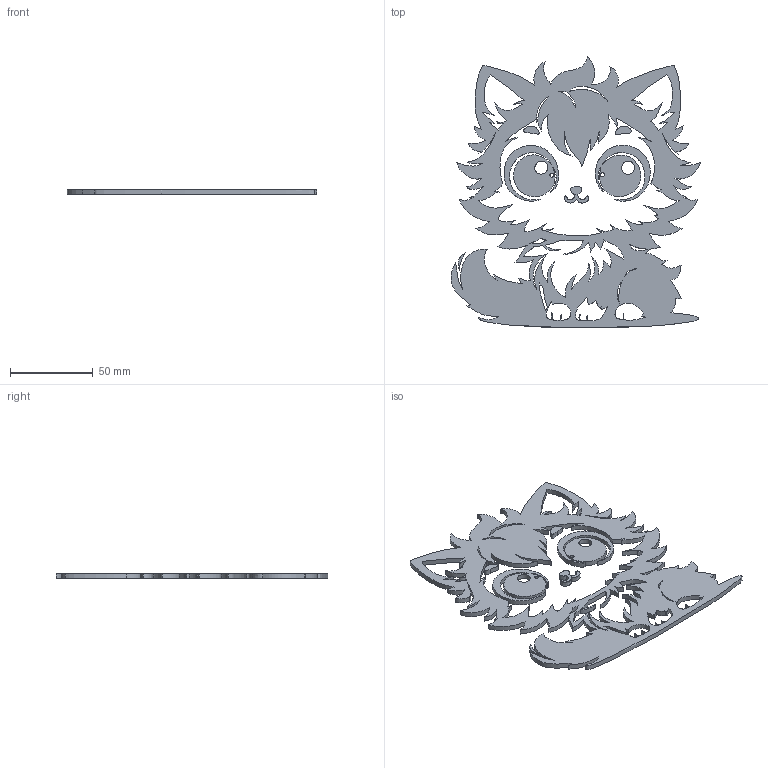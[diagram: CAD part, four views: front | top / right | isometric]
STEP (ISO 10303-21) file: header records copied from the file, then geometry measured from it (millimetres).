
FILE_DESCRIPTION(('STEP AP214'),'1');
FILE_NAME('3.stp','2026-07-04T12:57:20',(' '),(' '),'Spatial InterOp 3D',' ',' ');
FILE_SCHEMA(('AUTOMOTIVE_DESIGN { 1 0 10303 214 1 1 1 1 }'));
Length unit declared in the file: metre
Products named in the file (8): 1783172688; 1783172690; 1783172695; 1783172698; 1783172699; 1783172703; 1783172704; 1
Bounding box: 150.44 x 163.71 x 3 mm (x, y, z)
Volume: 36654.6 mm3; surface area: 35325.3 mm2
Topology: 7 solids, 7 shells, 239 faces, 900 edges, 675 vertices
Faces by surface type: extrusion 220, plane 18, cylinder 1
Full cylindrical faces by diameter (mm): 2.4 x1
Entity records: 15871 total; most frequent: CARTESIAN_POINT 7461, ORIENTED_EDGE 1342, B_SPLINE_CURVE_WITH_KNOTS 872, EDGE_CURVE 671, DIRECTION 509, VERTEX_POINT 450, VECTOR 449, STYLED_ITEM 296
